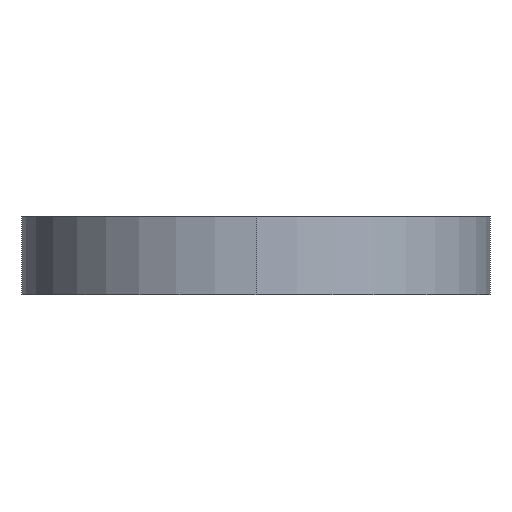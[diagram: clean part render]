
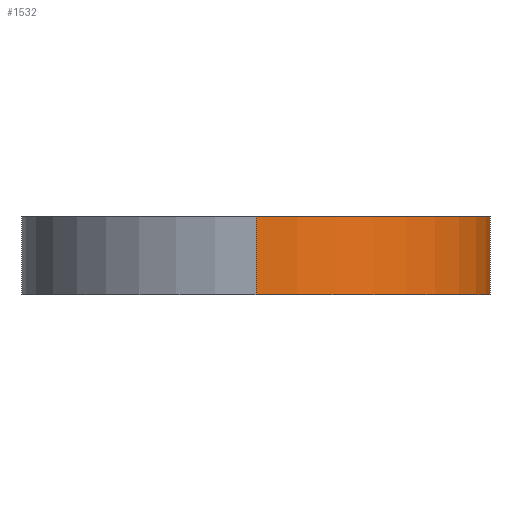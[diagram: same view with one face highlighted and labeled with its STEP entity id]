
A CAD part, left-side view. The second image highlights one B-rep face of the part: STEP entity #1532.
In plain terms, the highlighted cylindrical face has radius 45 mm (diameter 90 mm), a partial arc.
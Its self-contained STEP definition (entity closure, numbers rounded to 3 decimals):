
#214 = VERTEX_POINT ( 'NONE', #2103 ) ;
#215 = ORIENTED_EDGE ( 'NONE', *, *, #222, .T. ) ;
#216 = VERTEX_POINT ( 'NONE', #2094 ) ;
#221 = EDGE_CURVE ( 'NONE', #216, #214, #2090, .T. ) ;
#222 = EDGE_CURVE ( 'NONE', #216, #256, #2092, .T. ) ;
#240 = ORIENTED_EDGE ( 'NONE', *, *, #247, .F. ) ;
#241 = VERTEX_POINT ( 'NONE', #2093 ) ;
#247 = EDGE_CURVE ( 'NONE', #214, #241, #2121, .T. ) ;
#255 = EDGE_CURVE ( 'NONE', #256, #241, #2136, .T. ) ;
#256 = VERTEX_POINT ( 'NONE', #2107 ) ;
#258 = ORIENTED_EDGE ( 'NONE', *, *, #255, .T. ) ;
#777 = CARTESIAN_POINT ( 'NONE',  ( 0., 0., 7.5 ) ) ;
#782 = DIRECTION ( 'NONE',  ( 0., 0., -1. ) ) ;
#790 = AXIS2_PLACEMENT_3D ( 'NONE', #777, #782, #793 ) ;
#793 = DIRECTION ( 'NONE',  ( -1., 0., 0. ) ) ;
#794 = FACE_OUTER_BOUND ( 'NONE', #1521, .T. ) ;
#802 = CYLINDRICAL_SURFACE ( 'NONE', #790, 45. ) ;
#1521 = EDGE_LOOP ( 'NONE', ( #1524, #215, #258, #240 ) ) ;
#1524 = ORIENTED_EDGE ( 'NONE', *, *, #221, .F. ) ;
#1532 = ADVANCED_FACE ( 'NONE', ( #794 ), #802, .T. ) ;
#2079 = DIRECTION ( 'NONE',  ( 0., 0., -1. ) ) ;
#2080 = VECTOR ( 'NONE', #2079, 1000. ) ;
#2083 = DIRECTION ( 'NONE',  ( 1., 0., 0. ) ) ;
#2084 = DIRECTION ( 'NONE',  ( 0., 0., 1. ) ) ;
#2085 = CARTESIAN_POINT ( 'NONE',  ( 0., 0., 7.5 ) ) ;
#2086 = CARTESIAN_POINT ( 'NONE',  ( -45., 0., 7.5 ) ) ;
#2088 = AXIS2_PLACEMENT_3D ( 'NONE', #2085, #2084, #2083 ) ;
#2090 = CIRCLE ( 'NONE', #2088, 45. ) ;
#2092 = LINE ( 'NONE', #2086, #2080 ) ;
#2093 = CARTESIAN_POINT ( 'NONE',  ( 0., -45., -7.5 ) ) ;
#2094 = CARTESIAN_POINT ( 'NONE',  ( -45., 0., 7.5 ) ) ;
#2103 = CARTESIAN_POINT ( 'NONE',  ( 0., -45., 7.5 ) ) ;
#2107 = CARTESIAN_POINT ( 'NONE',  ( -45., 0., -7.5 ) ) ;
#2109 = CARTESIAN_POINT ( 'NONE',  ( 0., 0., -7.5 ) ) ;
#2111 = AXIS2_PLACEMENT_3D ( 'NONE', #2109, #2168, #2167 ) ;
#2112 = DIRECTION ( 'NONE',  ( 0., 0., -1. ) ) ;
#2113 = VECTOR ( 'NONE', #2112, 1000. ) ;
#2114 = CARTESIAN_POINT ( 'NONE',  ( 0., -45., 7.5 ) ) ;
#2121 = LINE ( 'NONE', #2114, #2113 ) ;
#2136 = CIRCLE ( 'NONE', #2111, 45. ) ;
#2167 = DIRECTION ( 'NONE',  ( 1., 0., 0. ) ) ;
#2168 = DIRECTION ( 'NONE',  ( 0., 0., 1. ) ) ;
